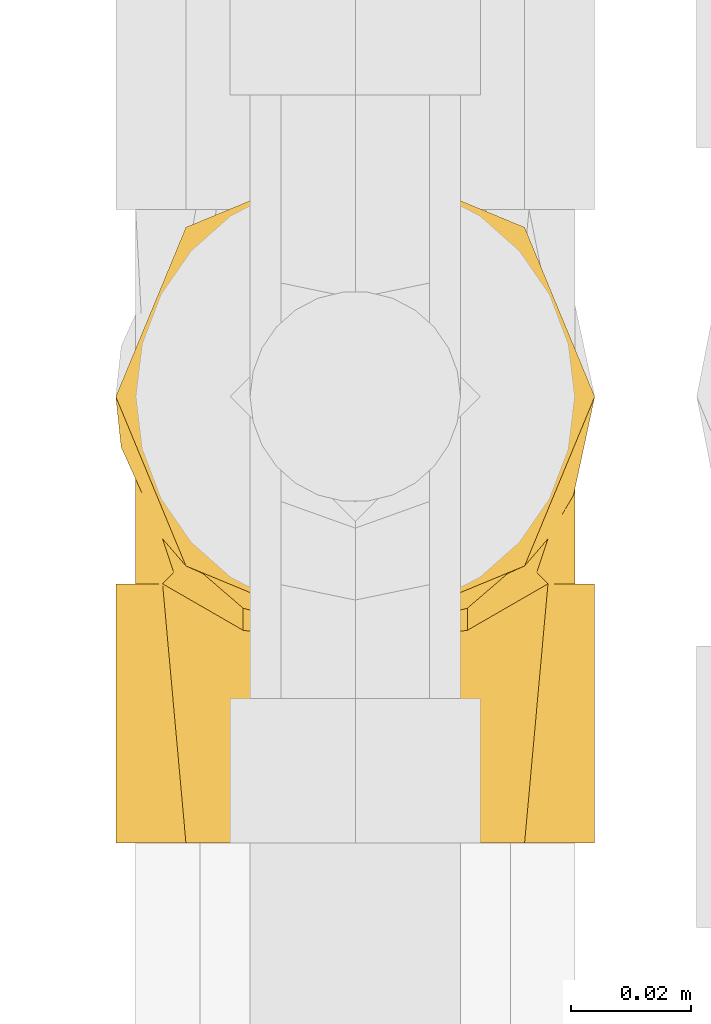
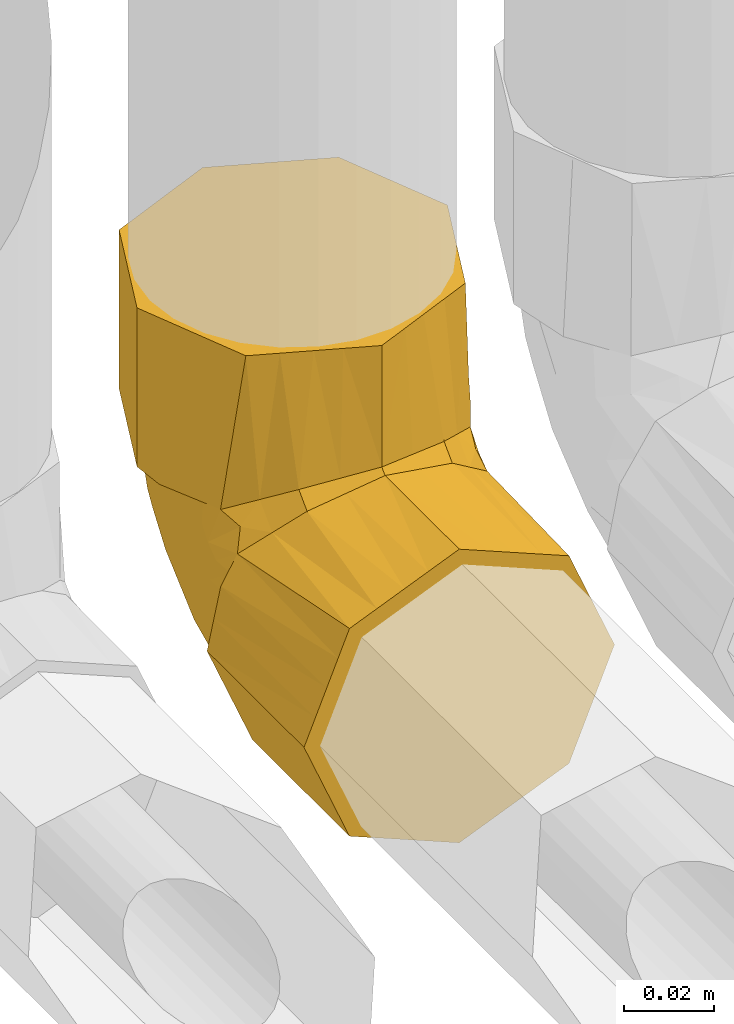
# One storey, part 230 of 652: 1 covering.
"""IFC2X3 building model written with IfcOpenShell, lengths in millimetres."""

from ifc_helpers import new_model, entity, si_unit, converted_unit, direction, frame, origin, place, context, subcontext, project, spatial, faceted_brep, material, type_object, element, save


model = new_model("IFC2X3")

# Units and contexts
model_context = context("Model", 3, precision=0.01, world=frame((0.0, 0.0, 308426.39999999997)), true_north=direction((6.123233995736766e-17, 1.0)))
plan_context = context("Plan", 3, precision=0.01, world=frame((0.0, 0.0, 308426.39999999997)), true_north=direction((6.123233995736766e-17, 1.0)))
body_context = subcontext(model_context, "Body", "Model", "MODEL_VIEW")
ifc_project = project(units=[si_unit("LENGTHUNIT", "METRE", prefix="MILLI"), si_unit("AREAUNIT", "SQUARE_METRE"), si_unit("VOLUMEUNIT", "CUBIC_METRE"), converted_unit("PLANEANGLEUNIT", "DEGREE", entity("IfcPlaneAngleMeasure", 0.017453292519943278), si_unit("PLANEANGLEUNIT", "RADIAN"), dimensions=[0, 0, 0, 0, 0, 0, 0])], contexts=[model_context, plan_context])

# Site, building, storey
site_placement = place(None, origin())
site = spatial("IfcSite", under=ifc_project, at=site_placement, Name="Default", CompositionType="ELEMENT")
building_placement = place(site_placement, origin())
building = spatial("IfcBuilding", under=site, at=building_placement, CompositionType="ELEMENT")
storey_placement = place(building_placement, frame((0.0, 0.0, 1730.6999999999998)))
storey = spatial("IfcBuildingStorey", under=building, at=storey_placement, Name="EG_Produktion_FFB", CompositionType="ELEMENT", Elevation=1730.6999999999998)

# Covering
ifc_material = material(Name="Dämmung - Armaflex-Schlauch")
covering_type = type_object("IfcCoveringType", Name="Rohrdämmung außen:Armaflex-Schlauch", PredefinedType="INSULATION")
covering_placement = place(storey_placement, frame((76538.64672776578, 51563.944103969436, 2358.6467277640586)))
element("IfcCovering", 1, at=covering_placement, inside=storey, type_object=covering_type, material=ifc_material, Name="Rohrdämmung außen:Armaflex-Schlauch", ObjectType="Rohrdämmung außen:Armaflex-Schlauch", PredefinedType="INSULATION", context=body_context, shape_type="Brep", body=[
    faceted_brep([(6.083537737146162, 43.00574999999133, 55.29344606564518), (5.617026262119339, 43.00574999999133, 51.30566939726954), (4.890772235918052, 43.00574999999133, 45.09759303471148), (8.3318644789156, 43.00574999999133, 37.46172977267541), (11.772956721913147, 43.00574999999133, 29.82586651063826), (14.999973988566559, 43.00574999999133, 22.665040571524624), (18.22699125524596, 43.00574999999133, 15.504214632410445), (29.790131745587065, 43.00574999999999, 11.253230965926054), (41.35327223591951, 43.00574999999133, 7.002247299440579), (48.56469745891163, 43.00574999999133, 10.64872167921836), (55.776122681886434, 43.00574999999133, 14.295196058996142), (62.9875479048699, 43.00574999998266, 17.941670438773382), (70.19897312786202, 43.00574999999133, 21.588144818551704), (72.58148097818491, 43.00574999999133, 28.941817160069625), (75.1986266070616, 43.00574999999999, 37.01970509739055), (77.81577223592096, 43.00574999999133, 45.09759303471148), (77.08951820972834, 43.00574999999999, 51.305669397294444), (76.62300673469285, 43.00574999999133, 55.29344606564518), (74.98470757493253, 43.00574999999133, 60.125242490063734), (73.34640841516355, 43.00574999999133, 64.9570389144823), (76.7834442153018, 43.00574999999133, 57.33961263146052), (80.22048001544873, 43.00574999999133, 49.7221863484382), (81.11127223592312, 43.00574999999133, 41.35327223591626), (77.7993156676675, 43.00574999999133, 33.35750177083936), (75.28884793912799, 43.00574999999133, 27.29669653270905), (72.37763579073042, 43.00574999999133, 20.26840868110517), (69.46642364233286, 43.00574999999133, 13.240120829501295), (62.43813579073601, 43.00574999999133, 10.328908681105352), (55.40984793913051, 43.00574999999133, 7.417696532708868), (48.38156008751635, 43.00574999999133, 4.506484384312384), (41.35327223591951, 43.00574999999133, 1.5952722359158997), (33.35750170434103, 43.00574999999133, 4.907228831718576), (27.296696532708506, 43.00574999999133, 7.417696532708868), (20.268408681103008, 43.00574999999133, 10.328908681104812), (13.240120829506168, 43.00574999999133, 13.240120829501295), (10.3289086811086, 43.00574999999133, 20.26840868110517), (7.417696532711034, 43.00574999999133, 27.296696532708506), (4.907228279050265, 43.00574999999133, 33.35750303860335), (1.5952722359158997, 43.00574999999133, 41.35327223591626), (3.3544466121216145, 43.00574999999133, 49.52924681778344), (5.113620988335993, 43.00574999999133, 57.70522139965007), (9.36013605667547, 43.00574999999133, 64.9570389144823), (7.721836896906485, 43.00574999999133, 60.12524249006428), (69.46642364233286, 0.0, 69.46642364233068), (62.43813579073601, 0.0, 72.37763579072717), (55.40984793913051, 0.0, 75.28884793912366), (49.349042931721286, 0.0, 77.79931557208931), (41.35327223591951, 0.0, 81.11127223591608), (33.357503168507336, 0.0, 77.79931624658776), (27.296696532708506, 0.0, 75.28884793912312), (20.268408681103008, 0.0, 72.37763579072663), (13.240120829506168, 0.0, 69.46642364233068), (10.3289086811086, 0.0, 62.43813579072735), (7.417696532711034, 0.0, 55.40984793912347), (4.506484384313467, 0.0, 48.381560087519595), (1.5952722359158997, 0.0, 41.35327223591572), (4.506484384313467, 0.0, 34.32498438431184), (7.417696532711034, 0.0, 27.296696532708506), (10.3289086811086, 0.0, 20.26840868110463), (13.240120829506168, 0.0, 13.240120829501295), (20.268408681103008, 0.0, 10.328908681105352), (27.296696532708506, 0.0, 7.417696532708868), (34.32498438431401, 0.0, 4.506484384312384), (41.35327223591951, 0.0, 1.5952722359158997), (48.38156008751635, 0.0, 4.506484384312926), (55.40984793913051, 0.0, 7.417696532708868), (62.43813579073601, 0.0, 10.328908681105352), (69.46642364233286, 0.0, 13.240120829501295), (74.48735878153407, 0.0, 25.361730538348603), (77.79931550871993, 0.0, 33.35750138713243), (81.11127223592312, 0.0, 41.35327223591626), (78.20006008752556, 0.0, 48.381560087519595), (75.28884793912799, 0.0, 55.40984793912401), (72.37763579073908, 0.0, 62.43813579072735), (66.6493605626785, 39.14313917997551, 70.72483298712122), (41.35327223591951, 32.88734533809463, 81.11127223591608), (50.65279247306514, 34.08393684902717, 78.80194964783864), (59.952312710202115, 35.280528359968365, 76.49262705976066), (55.3025525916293, 34.68223260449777, 77.64728835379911), (16.057183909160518, 39.14313917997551, 70.72483298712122), (32.053751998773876, 34.08393684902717, 78.80194964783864), (22.754231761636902, 35.280528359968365, 76.49262705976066), (37.04480775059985, 33.44172576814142, 80.04136388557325), (1.5952722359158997, 74.08424999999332, 72.43177223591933), (4.907228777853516, 82.08002040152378, 72.43177223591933), (7.417696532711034, 88.14082570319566, 72.43177223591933), (10.3289086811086, 95.16911355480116, 72.43177223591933), (13.240120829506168, 102.19740140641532, 72.43177223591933), (20.26840868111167, 105.10861355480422, 72.43177223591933), (27.296696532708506, 108.01982570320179, 72.43177223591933), (33.357503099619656, 110.53029398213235, 72.43177223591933), (41.35327223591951, 113.84224999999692, 72.43177223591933), (49.34904239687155, 110.53029355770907, 72.43177223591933), (55.40984793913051, 108.01982570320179, 72.43177223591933), (62.43813579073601, 105.10861355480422, 72.43177223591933), (69.46642364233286, 102.19740140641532, 72.43177223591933), (72.37763579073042, 95.16911355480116, 72.43177223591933), (75.28884793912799, 88.14082570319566, 72.43177223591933), (78.20006008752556, 81.11253785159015, 72.43177223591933), (81.11127223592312, 74.08424999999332, 72.43177223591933), (79.3520811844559, 65.90823846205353, 72.43177223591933), (77.59289013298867, 57.73222692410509, 72.43177223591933), (73.34640841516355, 50.48048332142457, 72.43177223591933), (74.98470757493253, 55.31227974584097, 72.43177223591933), (76.62300673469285, 60.144076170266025, 72.43177223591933), (77.08951812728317, 64.13185213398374, 72.43177223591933), (77.45264518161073, 67.23589066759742, 72.43177223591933), (77.81577223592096, 70.33992920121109, 72.43177223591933), (74.47922639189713, 77.74037965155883, 72.43177223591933), (71.1426805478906, 85.14083010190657, 72.43177223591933), (67.80613470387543, 92.54128055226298, 72.43177223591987), (64.4695888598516, 99.94173100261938, 72.43177223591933), (58.69050970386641, 102.06511698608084, 72.43177223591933), (52.911430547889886, 104.18850296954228, 72.43177223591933), (41.35327223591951, 108.43527493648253, 72.43177223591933), (34.13968333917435, 104.78589932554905, 72.43177223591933), (26.926094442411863, 101.1365237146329, 72.43177223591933), (19.712505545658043, 97.4871481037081, 72.43177223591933), (12.498916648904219, 93.83777249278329, 72.43177223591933), (10.596880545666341, 87.96331166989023, 72.43177223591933), (8.694844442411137, 82.08885084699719, 72.43177223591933), (4.890772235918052, 70.33992920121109, 72.43177223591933), (5.253899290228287, 67.23589066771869, 72.43177223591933), (5.617026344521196, 64.13185213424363, 72.43177223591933), (6.083537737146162, 60.144076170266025, 72.43177223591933), (7.721836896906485, 55.31227974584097, 72.43177223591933), (9.36013605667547, 50.48048332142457, 72.43177223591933), (5.923104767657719, 58.097888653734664, 72.43177223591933), (2.486073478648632, 65.71529398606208, 72.43177223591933), (78.20006008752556, 81.11253785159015, 115.43752223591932), (75.28884793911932, 88.14082570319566, 115.43752223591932), (72.37763579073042, 95.16911355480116, 115.43752223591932), (69.46642364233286, 102.19740140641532, 115.43752223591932), (57.34481362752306, 107.21833667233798, 115.43752223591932), (49.349042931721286, 110.53029333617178, 115.43752223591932), (41.35327223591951, 113.84224999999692, 115.43752223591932), (34.32498438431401, 110.93103785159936, 115.43752223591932), (27.296696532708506, 108.01982570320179, 115.43752223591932), (20.268408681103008, 105.10861355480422, 115.43752223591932), (13.240120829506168, 102.19740140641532, 115.43752223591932), (10.3289086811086, 95.16911355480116, 115.43752223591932), (7.417696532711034, 88.14082570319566, 115.43752223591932), (4.506484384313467, 81.11253785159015, 115.43752223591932), (1.5952722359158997, 74.08424999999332, 115.43752223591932), (4.506484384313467, 67.05596214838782, 115.43752223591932), (7.417696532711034, 60.02767429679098, 115.43752223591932), (10.3289086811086, 52.99938644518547, 115.43752223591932), (13.240120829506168, 45.971098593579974, 115.43752223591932), (20.268408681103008, 43.05988644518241, 115.43752223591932), (27.296696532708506, 40.14867429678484, 115.43752223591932), (33.35750137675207, 37.63820673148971, 115.43752223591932), (41.35327223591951, 34.32624999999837, 115.43752223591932), (49.34904132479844, 37.63820599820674, 115.43752223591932), (55.409847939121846, 40.14867429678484, 115.43752223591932), (62.43813579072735, 43.05988644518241, 115.43752223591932), (69.46642364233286, 45.971098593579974, 115.43752223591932), (72.37763579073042, 52.99938644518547, 115.43752223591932), (75.28884793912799, 60.02767429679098, 115.43752223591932), (77.7993155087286, 66.08847915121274, 115.43752223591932), (81.11127223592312, 74.08424999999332, 115.43752223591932), (41.35327223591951, 34.326249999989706, 82.55017689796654), (50.65279247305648, 36.63557258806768, 81.3535853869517), (59.95231271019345, 38.94489517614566, 80.15699387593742), (49.97020104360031, 36.46606666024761, 81.44141605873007), (66.6493605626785, 44.71268924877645, 76.29438305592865), (16.057183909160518, 44.71268924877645, 76.29438305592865), (32.05375199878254, 36.63557258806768, 81.3535853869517), (22.754231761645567, 38.94489517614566, 80.15699387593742), (32.736343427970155, 36.46606666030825, 81.44141605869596), (37.04480783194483, 35.39615833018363, 81.99579647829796), (70.58224481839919, 87.24641648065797, 57.27123137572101), (70.83707710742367, 59.264167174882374, 29.193847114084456), (74.32798861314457, 64.79374823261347, 40.00181649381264), (77.81577223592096, 54.44461824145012, 51.665813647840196), (77.00215070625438, 57.53690591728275, 44.42789919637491), (76.88875438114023, 69.53966351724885, 55.10669322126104), (68.42118911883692, 78.61751170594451, 40.74524993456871), (65.41959260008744, 63.635451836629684, 24.864680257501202), (41.35327223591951, 91.69909945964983, 37.51558616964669), (49.419286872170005, 97.09443549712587, 46.80160812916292), (49.772731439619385, 80.91983021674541, 27.552566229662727), (41.35327223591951, 55.179087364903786, 14.630582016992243), (50.77782717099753, 61.704602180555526, 14.912364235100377), (62.1795598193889, 81.91303386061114, 36.22272357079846), (77.81577223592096, 68.51539346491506, 70.04816151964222), (77.81577223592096, 66.6908577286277, 67.66455080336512), (77.81577223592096, 63.04178625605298, 62.897329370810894), (77.81577223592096, 58.74320224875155, 57.281571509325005), (65.51319346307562, 92.25168823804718, 54.94336486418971), (59.20066225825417, 71.24462333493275, 24.55935701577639), (60.21657287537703, 57.411109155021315, 17.330981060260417), (58.18811212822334, 92.66741072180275, 45.83612952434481), (55.84987819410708, 84.61256912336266, 33.94288682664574), (41.35327223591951, 100.06718719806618, 54.97367920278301), (41.35327223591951, 100.62176107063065, 56.13067021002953), (41.35327223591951, 67.3524247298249, 22.258916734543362), (41.35327223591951, 73.31662804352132, 25.996342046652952), (41.35327223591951, 79.52576209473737, 29.887251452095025), (55.74445137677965, 100.50080532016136, 57.752906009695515), (73.7993394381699, 78.60353708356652, 53.091887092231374), (41.35327223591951, 58.161189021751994, 16.499294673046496), (77.81577223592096, 48.25776996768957, 48.11331321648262), (77.16648559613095, 48.6114223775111, 55.8898031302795), (75.95462844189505, 47.904704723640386, 61.14799943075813), (41.35327223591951, 33.6337159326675, 81.80380630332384), (76.0357200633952, 51.459156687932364, 63.97836606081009), (71.49570768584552, 44.908883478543, 70.52863846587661), (75.95462822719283, 54.28952252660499, 67.53281820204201), (77.15152320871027, 59.518701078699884, 66.9208805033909), (5.540058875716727, 48.6114223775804, 55.88980313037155), (4.890772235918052, 48.25776996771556, 48.1133132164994), (11.210837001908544, 44.90888338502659, 70.52863882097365), (6.670824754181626, 51.45915593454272, 63.97836681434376), (6.7519160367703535, 47.90470469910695, 61.14799943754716), (4.890772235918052, 58.74320224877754, 57.281571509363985), (6.7519162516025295, 54.28952251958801, 67.53281822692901), (5.555021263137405, 59.518701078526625, 66.92088050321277), (4.890772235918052, 66.69085772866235, 67.66455080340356), (4.890772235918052, 54.44461824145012, 51.665813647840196), (4.890772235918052, 68.51539346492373, 70.04816151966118), (4.890772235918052, 63.041786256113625, 62.89732937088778), (7.90055709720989, 59.61186262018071, 37.54867793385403), (11.144292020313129, 58.14792793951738, 29.753616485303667), (6.907352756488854, 76.41301603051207, 58.23539538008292), (31.821832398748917, 83.37405497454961, 30.21968406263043), (16.763579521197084, 79.87091005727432, 38.43788537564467), (9.117077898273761, 74.4438185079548, 47.150672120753), (14.598856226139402, 86.90253298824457, 50.85120006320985), (5.892051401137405, 66.0986310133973, 50.71304963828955), (5.886693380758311, 55.988582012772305, 42.398132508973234), (15.338625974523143, 67.81026209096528, 29.782072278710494), (22.521459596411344, 86.64625364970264, 39.60413641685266), (31.617498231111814, 98.35278997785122, 49.78456672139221), (22.69544496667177, 96.79734628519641, 54.986101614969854), (9.61944594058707, 83.3350649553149, 58.13081411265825), (24.56861790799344, 64.8027936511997, 19.784818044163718), (21.067876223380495, 74.76137203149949, 29.107014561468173), (16.734184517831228, 55.99524376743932, 21.418901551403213), (33.08278710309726, 68.64794002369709, 18.405512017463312)], [[[0, 1, 2, 3, 4, 5, 6, 7, 8, 9, 10, 11, 12, 13, 14, 15, 16, 17, 18, 19, 20, 21, 22, 23, 24, 25, 26, 27, 28, 29, 30, 31, 32, 33, 34, 35, 36, 37, 38, 39, 40, 41, 42]], [[43, 44, 45, 46, 47, 48, 49, 50, 51, 52, 53, 54, 55, 56, 57, 58, 59, 60, 61, 62, 63, 64, 65, 66, 67, 68, 69, 70, 71, 72, 73]], [[44, 43, 74]], [[75, 47, 46]], [[76, 75, 46]], [[45, 77, 78, 76]], [[44, 74, 77]], [[72, 20, 73]], [[71, 21, 72]], [[43, 19, 74]], [[77, 45, 44]], [[72, 21, 20]], [[71, 22, 21]], [[45, 76, 46]], [[71, 70, 22]], [[73, 20, 19]], [[19, 43, 73]], [[23, 22, 70, 69, 68, 67, 26, 25, 24]], [[26, 67, 66, 65, 64, 63, 30, 29, 28, 27]], [[38, 37, 36, 35, 34, 59, 58, 57, 56, 55]], [[30, 63, 62, 61, 60, 59, 34, 33, 32, 31]], [[53, 40, 39]], [[50, 79, 51]], [[39, 54, 53]], [[41, 52, 51]], [[40, 52, 41]], [[80, 49, 48]], [[49, 80, 81]], [[55, 54, 38]], [[48, 75, 82, 80]], [[38, 54, 39]], [[79, 50, 81]], [[52, 40, 53]], [[48, 47, 75]], [[50, 49, 81]], [[79, 41, 51]], [[83, 84, 85, 86, 87, 88, 89, 90, 91, 92, 93, 94, 95, 96, 97, 98, 99, 100, 101, 102, 103, 104, 105, 106, 107, 108, 109, 110, 111, 112, 113, 114, 115, 116, 117, 118, 119, 120, 121, 122, 123, 124, 125, 126, 127, 128]], [[129, 130, 131, 132, 133, 134, 135, 136, 137, 138, 139, 140, 141, 142, 143, 144, 145, 146, 147, 148, 149, 150, 151, 152, 153, 154, 155, 156, 157, 158, 159]], [[135, 134, 133, 132, 95, 94, 93, 92, 91]], [[95, 132, 131, 130, 129, 159, 99, 98, 97, 96]], [[159, 158, 157, 100]], [[101, 156, 102]], [[99, 159, 100]], [[101, 100, 157]], [[152, 151, 160]], [[102, 156, 155]], [[153, 161, 162]], [[161, 153, 152]], [[152, 160, 163, 161]], [[154, 164, 155]], [[164, 154, 162]], [[156, 101, 157]], [[154, 153, 162]], [[164, 102, 155]], [[148, 147, 165]], [[149, 166, 150]], [[166, 149, 167]], [[160, 151, 150]], [[148, 165, 167]], [[145, 127, 146]], [[144, 128, 145]], [[147, 126, 165]], [[167, 149, 148]], [[145, 128, 127]], [[144, 83, 128]], [[150, 166, 168, 169, 160]], [[144, 143, 83]], [[146, 127, 126]], [[126, 147, 146]], [[91, 90, 89, 88, 87, 139, 138, 137, 136, 135]], [[141, 140, 139, 87, 86, 85, 84, 83, 143, 142]], [[109, 170, 110]], [[13, 171, 172]], [[14, 13, 172]], [[173, 174, 175]], [[176, 171, 177]], [[15, 14, 174]], [[178, 179, 180]], [[9, 181, 182]], [[172, 175, 174]], [[13, 12, 171]], [[12, 11, 177]], [[176, 177, 183]], [[175, 107, 184, 185, 186, 187, 173]], [[188, 170, 176]], [[176, 172, 171]], [[189, 190, 182]], [[11, 10, 190]], [[177, 11, 190]], [[170, 188, 110]], [[191, 183, 192]], [[179, 178, 193, 194]], [[182, 190, 10]], [[189, 182, 180]], [[177, 190, 189]], [[182, 10, 9]], [[182, 195, 180]], [[177, 189, 183]], [[177, 171, 12]], [[180, 195, 196, 197, 178]], [[113, 179, 194]], [[112, 111, 198, 113]], [[198, 111, 188]], [[194, 114, 113]], [[179, 191, 192]], [[199, 175, 172]], [[199, 108, 175]], [[172, 176, 199]], [[188, 111, 110]], [[199, 170, 109]], [[183, 188, 176]], [[108, 199, 109]], [[188, 191, 198]], [[108, 107, 175]], [[176, 170, 199]], [[192, 189, 180]], [[188, 183, 191]], [[189, 192, 183]], [[179, 192, 180]], [[181, 9, 8]], [[182, 181, 200, 195]], [[191, 179, 198]], [[179, 113, 198]], [[174, 173, 201, 15]], [[172, 174, 14]], [[173, 202, 201]], [[173, 187, 203]], [[18, 203, 19]], [[201, 17, 16, 15]], [[204, 76, 163]], [[74, 164, 162, 77]], [[163, 76, 78, 77, 162, 161]], [[205, 102, 206]], [[206, 164, 74]], [[106, 105, 104, 185, 184, 107]], [[205, 207, 102]], [[186, 185, 208, 187]], [[204, 75, 76]], [[163, 160, 204]], [[205, 206, 19]], [[164, 206, 102]], [[203, 205, 19]], [[19, 206, 74]], [[201, 202, 17]], [[17, 202, 18]], [[203, 202, 173]], [[18, 202, 203]], [[102, 207, 103]], [[103, 208, 104]], [[207, 205, 187]], [[208, 103, 207]], [[208, 185, 104]], [[187, 208, 207]], [[203, 187, 205]], [[204, 160, 169]], [[209, 210, 0]], [[169, 168, 166, 167, 81, 80, 82]], [[41, 211, 212]], [[1, 0, 210, 2]], [[213, 212, 214]], [[204, 169, 82]], [[79, 165, 211]], [[126, 125, 215]], [[212, 211, 126]], [[204, 82, 75]], [[167, 165, 79, 81]], [[216, 124, 217]], [[218, 209, 213]], [[122, 121, 219, 217, 124, 123]], [[41, 79, 211]], [[211, 165, 126]], [[209, 0, 42]], [[125, 124, 216]], [[126, 215, 212]], [[125, 216, 215]], [[220, 214, 216, 217]], [[213, 42, 41]], [[212, 213, 41]], [[210, 209, 218]], [[214, 212, 215]], [[209, 42, 213]], [[215, 216, 214]], [[218, 213, 214]], [[4, 221, 222]], [[223, 121, 120]], [[224, 178, 197, 196]], [[225, 226, 227]], [[228, 226, 221]], [[229, 218, 228]], [[222, 226, 230]], [[231, 232, 224]], [[3, 229, 221]], [[233, 232, 231]], [[234, 223, 120]], [[229, 2, 210, 218]], [[224, 235, 236]], [[4, 3, 221]], [[228, 218, 214, 220, 217, 219, 121]], [[237, 222, 230]], [[6, 235, 7]], [[235, 6, 237]], [[238, 200, 7]], [[228, 223, 226]], [[224, 238, 235]], [[234, 226, 223]], [[227, 117, 233]], [[193, 232, 115]], [[224, 232, 178]], [[115, 114, 194, 193]], [[235, 237, 236]], [[238, 224, 196]], [[226, 222, 221]], [[222, 237, 5]], [[5, 237, 6]], [[5, 4, 222]], [[237, 230, 236]], [[7, 200, 181, 8]], [[7, 235, 238]], [[238, 196, 195, 200]], [[227, 118, 117]], [[193, 178, 232]], [[231, 236, 225]], [[233, 117, 116]], [[232, 233, 116]], [[227, 233, 231]], [[229, 3, 2]], [[228, 221, 229]], [[121, 223, 228]], [[119, 118, 234, 120]], [[234, 118, 227]], [[227, 226, 234]], [[232, 116, 115]], [[225, 236, 230]], [[224, 236, 231]], [[226, 225, 230]], [[231, 225, 227]]]),
])

save(model, "model.ifc")
